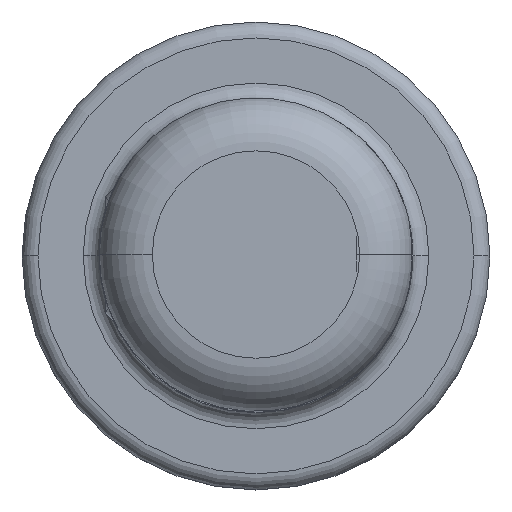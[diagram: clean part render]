
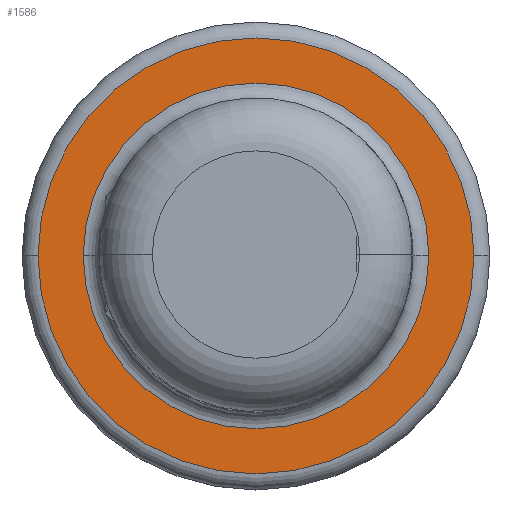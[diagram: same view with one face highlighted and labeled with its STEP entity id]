
A CAD part, top view. The second image highlights one B-rep face of the part: STEP entity #1586.
In plain terms, the highlighted planar face has unit normal (0, 0, 1).
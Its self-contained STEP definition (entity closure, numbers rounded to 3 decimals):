
#60 = VERTEX_POINT ( 'NONE', #746 ) ;
#172 = EDGE_LOOP ( 'NONE', ( #220, #554 ) ) ;
#208 = CIRCLE ( 'NONE', #342, 4.1 ) ;
#216 = EDGE_LOOP ( 'NONE', ( #285, #1224 ) ) ;
#220 = ORIENTED_EDGE ( 'NONE', *, *, #379, .T. ) ;
#251 = CARTESIAN_POINT ( 'NONE',  ( 0., 0., 192.5 ) ) ;
#270 = DIRECTION ( 'NONE',  ( 1., 0., 0. ) ) ;
#285 = ORIENTED_EDGE ( 'NONE', *, *, #1367, .F. ) ;
#342 = AXIS2_PLACEMENT_3D ( 'NONE', #251, #1326, #1312 ) ;
#373 = CIRCLE ( 'NONE', #444, 3.25 ) ;
#379 = EDGE_CURVE ( 'NONE', #1643, #60, #1524, .T. ) ;
#424 = DIRECTION ( 'NONE',  ( 1., 0., 0. ) ) ;
#444 = AXIS2_PLACEMENT_3D ( 'NONE', #1328, #1469, #445 ) ;
#445 = DIRECTION ( 'NONE',  ( 1., 0., 0. ) ) ;
#464 = CIRCLE ( 'NONE', #602, 3.25 ) ;
#554 = ORIENTED_EDGE ( 'NONE', *, *, #847, .T. ) ;
#602 = AXIS2_PLACEMENT_3D ( 'NONE', #1945, #1331, #424 ) ;
#707 = AXIS2_PLACEMENT_3D ( 'NONE', #1348, #1816, #1060 ) ;
#746 = CARTESIAN_POINT ( 'NONE',  ( -4.1, 0., 192.5 ) ) ;
#847 = EDGE_CURVE ( 'NONE', #60, #1643, #208, .T. ) ;
#849 = EDGE_CURVE ( 'NONE', #1858, #1939, #373, .T. ) ;
#872 = DIRECTION ( 'NONE',  ( 0., 0., 1. ) ) ;
#908 = PLANE ( 'NONE',  #707 ) ;
#948 = CARTESIAN_POINT ( 'NONE',  ( 4.1, 0., 192.5 ) ) ;
#1060 = DIRECTION ( 'NONE',  ( -1., 0., 0. ) ) ;
#1067 = FACE_OUTER_BOUND ( 'NONE', #172, .T. ) ;
#1224 = ORIENTED_EDGE ( 'NONE', *, *, #849, .F. ) ;
#1305 = AXIS2_PLACEMENT_3D ( 'NONE', #1653, #872, #270 ) ;
#1312 = DIRECTION ( 'NONE',  ( 1., 0., 0. ) ) ;
#1326 = DIRECTION ( 'NONE',  ( 0., 0., 1. ) ) ;
#1328 = CARTESIAN_POINT ( 'NONE',  ( 0., 0., 192.5 ) ) ;
#1331 = DIRECTION ( 'NONE',  ( 0., 0., 1. ) ) ;
#1348 = CARTESIAN_POINT ( 'NONE',  ( 0., 4.1, 192.5 ) ) ;
#1351 = FACE_BOUND ( 'NONE', #216, .T. ) ;
#1367 = EDGE_CURVE ( 'NONE', #1939, #1858, #464, .T. ) ;
#1469 = DIRECTION ( 'NONE',  ( 0., 0., 1. ) ) ;
#1524 = CIRCLE ( 'NONE', #1305, 4.1 ) ;
#1541 = CARTESIAN_POINT ( 'NONE',  ( 3.25, 0., 192.5 ) ) ;
#1586 = ADVANCED_FACE ( 'NONE', ( #1351, #1067 ), #908, .F. ) ;
#1643 = VERTEX_POINT ( 'NONE', #948 ) ;
#1653 = CARTESIAN_POINT ( 'NONE',  ( 0., 0., 192.5 ) ) ;
#1772 = CARTESIAN_POINT ( 'NONE',  ( -3.25, 0., 192.5 ) ) ;
#1816 = DIRECTION ( 'NONE',  ( 0., 0., -1. ) ) ;
#1858 = VERTEX_POINT ( 'NONE', #1772 ) ;
#1939 = VERTEX_POINT ( 'NONE', #1541 ) ;
#1945 = CARTESIAN_POINT ( 'NONE',  ( 0., 0., 192.5 ) ) ;
